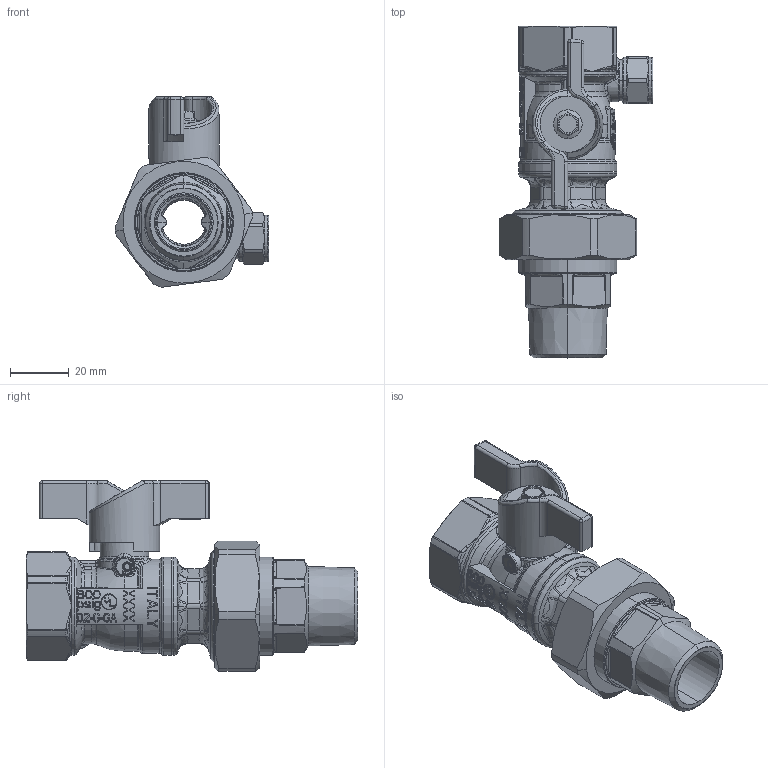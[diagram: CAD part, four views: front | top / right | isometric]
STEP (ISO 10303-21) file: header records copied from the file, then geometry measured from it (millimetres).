
FILE_DESCRIPTION(('Open CASCADE Model'),'2;1');
FILE_NAME('Open CASCADE Shape Model','2021-11-22T15:36:29',('Author'),( 'Open CASCADE'),'Open CASCADE STEP processor 7.3','Open CASCADE 7.3' ,'Unknown');
FILE_SCHEMA(('AUTOMOTIVE_DESIGN { 1 0 10303 214 1 1 1 1 }'));
Length unit declared in the file: millimetre
Products named in the file (30): Open CASCADE STEP translator 7.3 1; Open CASCADE STEP translator 7.3 1.1; Open CASCADE STEP translator 7.3 1.2; Open CASCADE STEP translator 7.3 1.3; Open CASCADE STEP translator 7.3 1.4; Open CASCADE STEP translator 7.3 1.5; Open CASCADE STEP translator 7.3 1.6; Open CASCADE STEP translator 7.3 1.7; Open CASCADE STEP translator 7.3 1.8; Open CASCADE STEP translator 7.3 1.9; Open CASCADE STEP translator 7.3 1.10; Open CASCADE STEP translator 7.3 1.11; Open CASCADE STEP translator 7.3 1.12; Open CASCADE STEP translator 7.3 1.13; Open CASCADE STEP translator 7.3 1.14; Open CASCADE STEP translator 7.3 1.15; Open CASCADE STEP translator 7.3 1.16; Open CASCADE STEP translator 7.3 1.17; Open CASCADE STEP translator 7.3 1.18; Open CASCADE STEP translator 7.3 1.19; Open CASCADE STEP translator 7.3 1.20; Open CASCADE STEP translator 7.3 1.21; Open CASCADE STEP translator 7.3 1.22; Open CASCADE STEP translator 7.3 1.23; Open CASCADE STEP translator 7.3 1.24; Open CASCADE STEP translator 7.3 1.25; Open CASCADE STEP translator 7.3 1.26; Open CASCADE STEP translator 7.3 1.27; Open CASCADE STEP translator 7.3 1.28; Open CASCADE STEP translator 7.3 1.29
Assembly tree (29 placements, depth 2):
  Open CASCADE STEP translator 7.3 1
    Open CASCADE STEP translator 7.3 1.1
    Open CASCADE STEP translator 7.3 1.2
    Open CASCADE STEP translator 7.3 1.3
    Open CASCADE STEP translator 7.3 1.4
    Open CASCADE STEP translator 7.3 1.5
    Open CASCADE STEP translator 7.3 1.6
    Open CASCADE STEP translator 7.3 1.7
    Open CASCADE STEP translator 7.3 1.8
    Open CASCADE STEP translator 7.3 1.9
    Open CASCADE STEP translator 7.3 1.10
    Open CASCADE STEP translator 7.3 1.11
    Open CASCADE STEP translator 7.3 1.12
    Open CASCADE STEP translator 7.3 1.13
    Open CASCADE STEP translator 7.3 1.14
    Open CASCADE STEP translator 7.3 1.15
    Open CASCADE STEP translator 7.3 1.16
    Open CASCADE STEP translator 7.3 1.17
    Open CASCADE STEP translator 7.3 1.18
    Open CASCADE STEP translator 7.3 1.19
    Open CASCADE STEP translator 7.3 1.20
    Open CASCADE STEP translator 7.3 1.21
    Open CASCADE STEP translator 7.3 1.22
    Open CASCADE STEP translator 7.3 1.23
    Open CASCADE STEP translator 7.3 1.24
    Open CASCADE STEP translator 7.3 1.25
    Open CASCADE STEP translator 7.3 1.26
    Open CASCADE STEP translator 7.3 1.27
    Open CASCADE STEP translator 7.3 1.28
    Open CASCADE STEP translator 7.3 1.29
Bounding box: 52.44 x 113.1 x 65 mm (x, y, z)
Volume: 72426.8 mm3; surface area: 55076.2 mm2
Topology: 17 solids, 29 shells, 2112 faces, 5532 edges, 3541 vertices
Faces by surface type: bspline 919, plane 579, cylinder 306, cone 146, torus 132, revolution 16, sphere 14
Entity records: 213184 total; most frequent: CARTESIAN_POINT 119375, DIRECTION 11717, ORIENTED_EDGE 11000, PCURVE 11000, DEFINITIONAL_REPRESENTATION 11000, B_SPLINE_CURVE_WITH_KNOTS 8440, LINE 6153, VECTOR 6153
